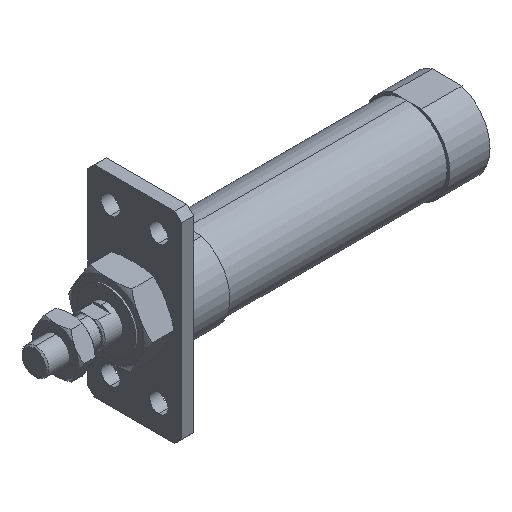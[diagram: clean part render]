
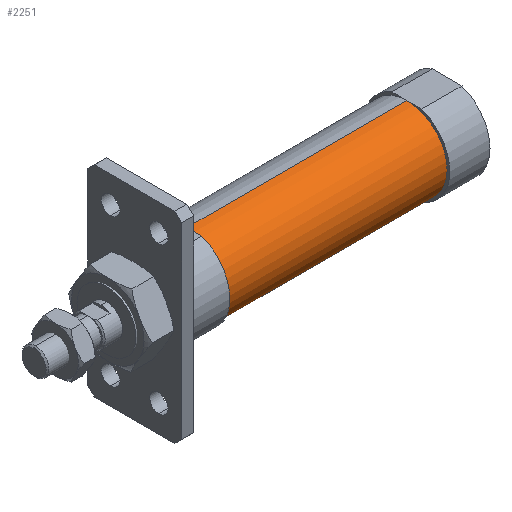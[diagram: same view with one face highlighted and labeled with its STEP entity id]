
A CAD part, isometric view. The second image highlights one B-rep face of the part: STEP entity #2251.
In plain terms, the highlighted cylindrical face has radius 15 mm (diameter 30 mm), a partial arc.
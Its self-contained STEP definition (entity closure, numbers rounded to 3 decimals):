
#186 = CARTESIAN_POINT ( 'NONE',  ( 139., 0., 15. ) ) ;
#265 = LINE ( 'NONE', #3182, #1425 ) ;
#534 = CARTESIAN_POINT ( 'NONE',  ( 139., 0., -15. ) ) ;
#584 = DIRECTION ( 'NONE',  ( 0., 0., 1. ) ) ;
#697 = EDGE_CURVE ( 'NONE', #3710, #2021, #1520, .T. ) ;
#764 = DIRECTION ( 'NONE',  ( -1., 0., 0. ) ) ;
#805 = DIRECTION ( 'NONE',  ( -1., 0., 0. ) ) ;
#819 = FACE_OUTER_BOUND ( 'NONE', #1615, .T. ) ;
#871 = CARTESIAN_POINT ( 'NONE',  ( 57., 0., -15. ) ) ;
#1072 = EDGE_CURVE ( 'NONE', #2021, #2562, #1569, .T. ) ;
#1102 = VECTOR ( 'NONE', #1614, 1000. ) ;
#1122 = AXIS2_PLACEMENT_3D ( 'NONE', #2502, #764, #2823 ) ;
#1126 = ORIENTED_EDGE ( 'NONE', *, *, #1072, .T. ) ;
#1239 = DIRECTION ( 'NONE',  ( 0., 0., 1. ) ) ;
#1425 = VECTOR ( 'NONE', #1742, 1000. ) ;
#1520 = CIRCLE ( 'NONE', #1122, 15. ) ;
#1553 = VERTEX_POINT ( 'NONE', #871 ) ;
#1569 = LINE ( 'NONE', #3057, #1102 ) ;
#1614 = DIRECTION ( 'NONE',  ( -1., 0., 0. ) ) ;
#1615 = EDGE_LOOP ( 'NONE', ( #2580, #3179, #1126, #2040 ) ) ;
#1734 = AXIS2_PLACEMENT_3D ( 'NONE', #2407, #805, #584 ) ;
#1738 = EDGE_CURVE ( 'NONE', #1553, #2562, #3051, .T. ) ;
#1742 = DIRECTION ( 'NONE',  ( -1., 0., 0. ) ) ;
#2021 = VERTEX_POINT ( 'NONE', #186 ) ;
#2040 = ORIENTED_EDGE ( 'NONE', *, *, #1738, .F. ) ;
#2251 = ADVANCED_FACE ( 'NONE', ( #819 ), #2821, .T. ) ;
#2286 = EDGE_CURVE ( 'NONE', #3710, #1553, #265, .T. ) ;
#2407 = CARTESIAN_POINT ( 'NONE',  ( -6.469, 0., 0. ) ) ;
#2502 = CARTESIAN_POINT ( 'NONE',  ( 139., 0., 0. ) ) ;
#2562 = VERTEX_POINT ( 'NONE', #3312 ) ;
#2580 = ORIENTED_EDGE ( 'NONE', *, *, #2286, .F. ) ;
#2668 = CARTESIAN_POINT ( 'NONE',  ( 57., 0., 0. ) ) ;
#2696 = AXIS2_PLACEMENT_3D ( 'NONE', #2668, #3554, #1239 ) ;
#2821 = CYLINDRICAL_SURFACE ( 'NONE', #1734, 15. ) ;
#2823 = DIRECTION ( 'NONE',  ( 0., 0., 1. ) ) ;
#3051 = CIRCLE ( 'NONE', #2696, 15. ) ;
#3057 = CARTESIAN_POINT ( 'NONE',  ( -6.469, 0., 15. ) ) ;
#3179 = ORIENTED_EDGE ( 'NONE', *, *, #697, .T. ) ;
#3182 = CARTESIAN_POINT ( 'NONE',  ( -6.469, 0., -15. ) ) ;
#3312 = CARTESIAN_POINT ( 'NONE',  ( 57., 0., 15. ) ) ;
#3554 = DIRECTION ( 'NONE',  ( -1., 0., 0. ) ) ;
#3710 = VERTEX_POINT ( 'NONE', #534 ) ;
